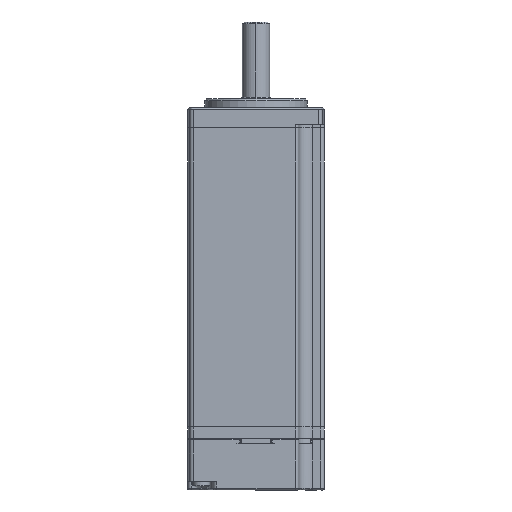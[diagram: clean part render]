
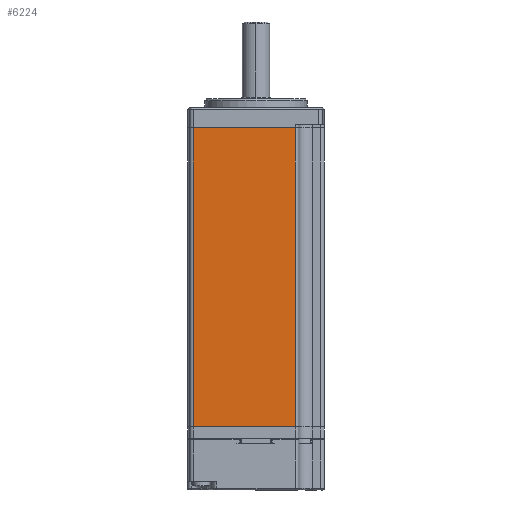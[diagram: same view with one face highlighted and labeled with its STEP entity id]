
A CAD part, front view. The second image highlights one B-rep face of the part: STEP entity #6224.
In plain terms, the highlighted planar face has unit normal (0, 1, 0).
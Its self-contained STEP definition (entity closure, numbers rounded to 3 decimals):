
#899 = EDGE_CURVE ( 'NONE', #5394, #9253, #9049, .T. ) ;
#994 = FACE_OUTER_BOUND ( 'NONE', #17303, .T. ) ;
#1342 = CARTESIAN_POINT ( 'NONE',  ( 20., -20., 0. ) ) ;
#1443 = ORIENTED_EDGE ( 'NONE', *, *, #5700, .T. ) ;
#1457 = DIRECTION ( 'NONE',  ( 0., 0., 1. ) ) ;
#1729 = ORIENTED_EDGE ( 'NONE', *, *, #19647, .T. ) ;
#2062 = EDGE_CURVE ( 'NONE', #5868, #5394, #11172, .T. ) ;
#2293 = DIRECTION ( 'NONE',  ( 0., 0., 1. ) ) ;
#4099 = VERTEX_POINT ( 'NONE', #15213 ) ;
#5102 = CARTESIAN_POINT ( 'NONE',  ( 20., -20., 87.5 ) ) ;
#5394 = VERTEX_POINT ( 'NONE', #21632 ) ;
#5700 = EDGE_CURVE ( 'NONE', #4099, #5868, #12194, .T. ) ;
#5868 = VERTEX_POINT ( 'NONE', #15458 ) ;
#6224 = ADVANCED_FACE ( 'NONE', ( #994 ), #13260, .T. ) ;
#6754 = VECTOR ( 'NONE', #1457, 1000. ) ;
#6976 = LINE ( 'NONE', #1342, #10974 ) ;
#8680 = CARTESIAN_POINT ( 'NONE',  ( 11.5, -20., 87.5 ) ) ;
#9049 = LINE ( 'NONE', #8680, #20203 ) ;
#9253 = VERTEX_POINT ( 'NONE', #23258 ) ;
#9802 = AXIS2_PLACEMENT_3D ( 'NONE', #18656, #14948, #2293 ) ;
#9832 = ORIENTED_EDGE ( 'NONE', *, *, #899, .T. ) ;
#10974 = VECTOR ( 'NONE', #12317, 1000. ) ;
#11172 = LINE ( 'NONE', #5102, #20358 ) ;
#12194 = LINE ( 'NONE', #21601, #6754 ) ;
#12317 = DIRECTION ( 'NONE',  ( -1., 0., 0. ) ) ;
#13260 = PLANE ( 'NONE',  #9802 ) ;
#14195 = DIRECTION ( 'NONE',  ( 0., 0., -1. ) ) ;
#14948 = DIRECTION ( 'NONE',  ( 0., 1., 0. ) ) ;
#15213 = CARTESIAN_POINT ( 'NONE',  ( -18.397, -20., 0. ) ) ;
#15458 = CARTESIAN_POINT ( 'NONE',  ( -18.397, -20., 87.5 ) ) ;
#17303 = EDGE_LOOP ( 'NONE', ( #9832, #1729, #1443, #21664 ) ) ;
#18656 = CARTESIAN_POINT ( 'NONE',  ( 20., -20., 87.5 ) ) ;
#19647 = EDGE_CURVE ( 'NONE', #9253, #4099, #6976, .T. ) ;
#20203 = VECTOR ( 'NONE', #14195, 1000. ) ;
#20358 = VECTOR ( 'NONE', #21474, 1000. ) ;
#21474 = DIRECTION ( 'NONE',  ( 1., 0., 0. ) ) ;
#21601 = CARTESIAN_POINT ( 'NONE',  ( -18.397, -20., 87.5 ) ) ;
#21632 = CARTESIAN_POINT ( 'NONE',  ( 11.5, -20., 87.5 ) ) ;
#21664 = ORIENTED_EDGE ( 'NONE', *, *, #2062, .T. ) ;
#23258 = CARTESIAN_POINT ( 'NONE',  ( 11.5, -20., 0. ) ) ;
